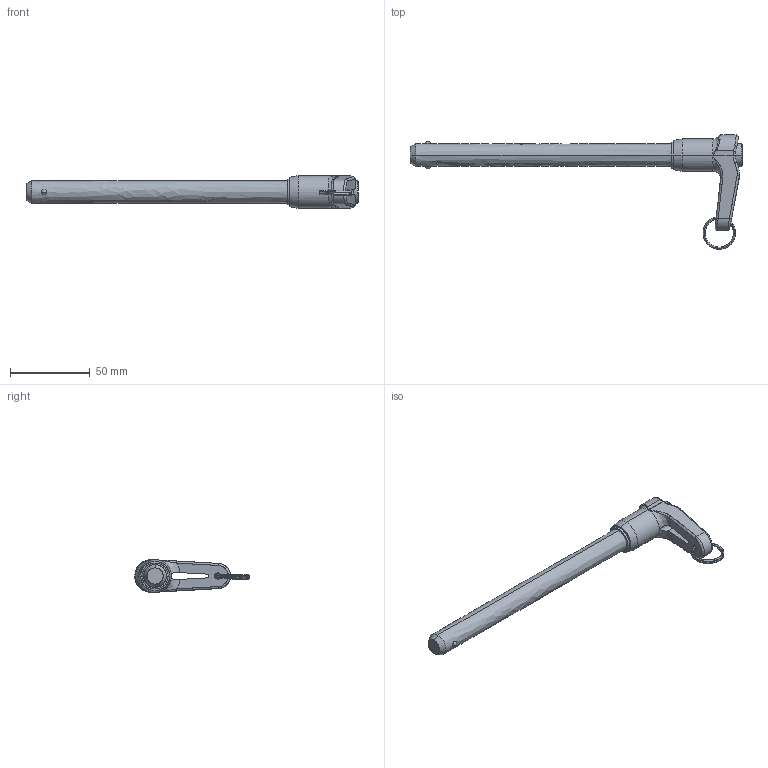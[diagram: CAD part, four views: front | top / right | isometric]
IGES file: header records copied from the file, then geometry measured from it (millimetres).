
Start section: SolidWorks IGES file using analytic representation for surfaces
Global section: file name: C:\Documents and Settings\IANO\My Documents\Wix and Auto CAD Work\CAD Models\Parametric Models\Wix Models\30000\33620_v2\33620_v2_20160606_IGES\33620.G060.igs; native system: SolidWorks 2009; preprocessor: SolidWorks 2009; author: IANO; date: 160615.130222; units: inch
Bounding box: 208.03 x 71.69 x 20.32 mm (x, y, z)
Surface area: 17103.2 mm2 (no closed solid volume)
Topology: 0 solids, 0 shells, 83 faces, 1227 edges, 1225 vertices
Faces by surface type: bspline 53, revolution 30
